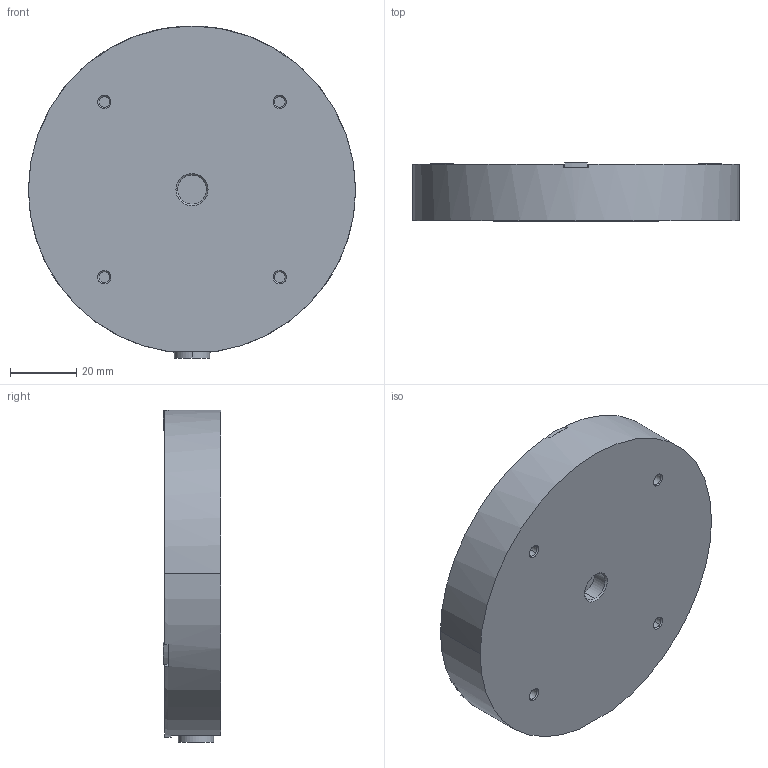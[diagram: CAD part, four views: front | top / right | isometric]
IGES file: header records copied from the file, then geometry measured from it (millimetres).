
Start section:  PTC IGES file: R412010640\r412010640.iges
Global section: file name: R412010640\r412010640.iges; native system: Creo Parametric by PTC Inc.; preprocessor: 2023092; author: GND7HC; organization: Unknown; date: 20241206.161956; units: millimetre
Bounding box: 99 x 17.4 x 100.45 mm (x, y, z)
Surface area: 22136.2 mm2 (no closed solid volume)
Topology: 0 solids, 0 shells, 74 faces, 340 edges, 340 vertices
Faces by surface type: bspline 37, revolution 37
